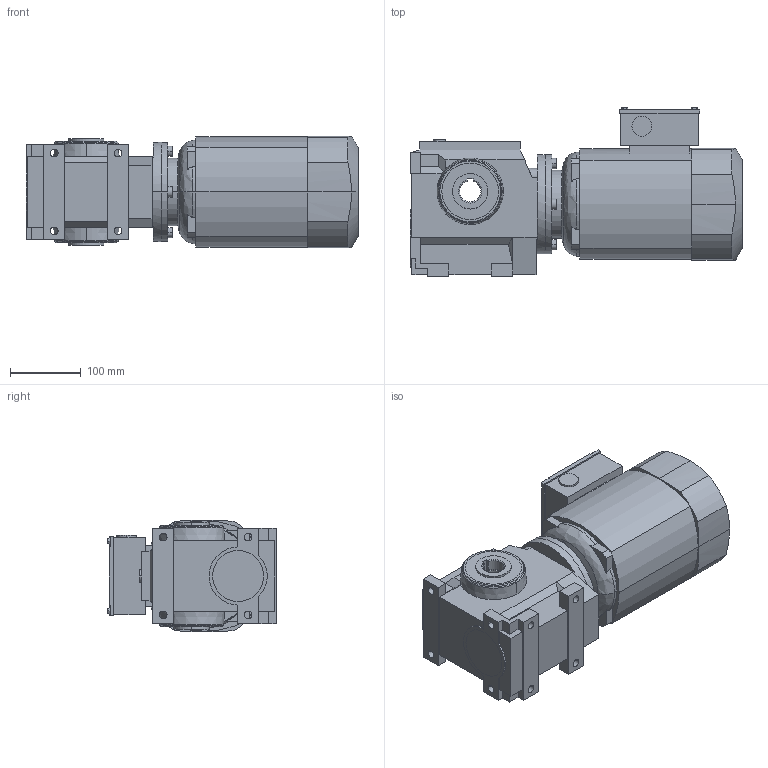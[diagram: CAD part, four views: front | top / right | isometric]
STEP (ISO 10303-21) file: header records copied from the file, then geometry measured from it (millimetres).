
FILE_DESCRIPTION(('STEP AP214'),'1');
FILE_NAME('STEP-File.stp','2018-01-01T00:00:00',(' '),('KEB'),' ','KEB-DRIVE',' ');
FILE_SCHEMA(('AUTOMOTIVE_DESIGN { 1 0 10303 214 1 1 1 1 }'));
Length unit declared in the file: millimetre
Products named in the file (10): s2a; wc_hw_30; wch_slno; cm2; dm90l_kkn; kk08; PLUG_M25; ndm90; S22A DM80GD4§CAD13
Assembly tree (9 placements, depth 2):
  S22A DM80GD4§CAD13
    s2a
    wc_hw_30
    wch_slno
    wch_slno
    cm2
    dm90l_kkn
    kk08
    PLUG_M25
    ndm90
Bounding box: 469 x 238.5 x 157.8 mm (x, y, z)
Volume: 9602145 mm3; surface area: 587730.6 mm2
Topology: 9 solids, 9 shells, 434 faces, 1261 edges, 970 vertices
Faces by surface type: plane 287, cylinder 85, cone 46, torus 10, extrusion 4, revolution 2
Entity records: 17090 total; most frequent: CARTESIAN_POINT 5757, ORIENTED_EDGE 2522, DIRECTION 1807, EDGE_CURVE 1261, VERTEX_POINT 970, VECTOR 920, LINE 916, EDGE_LOOP 583
